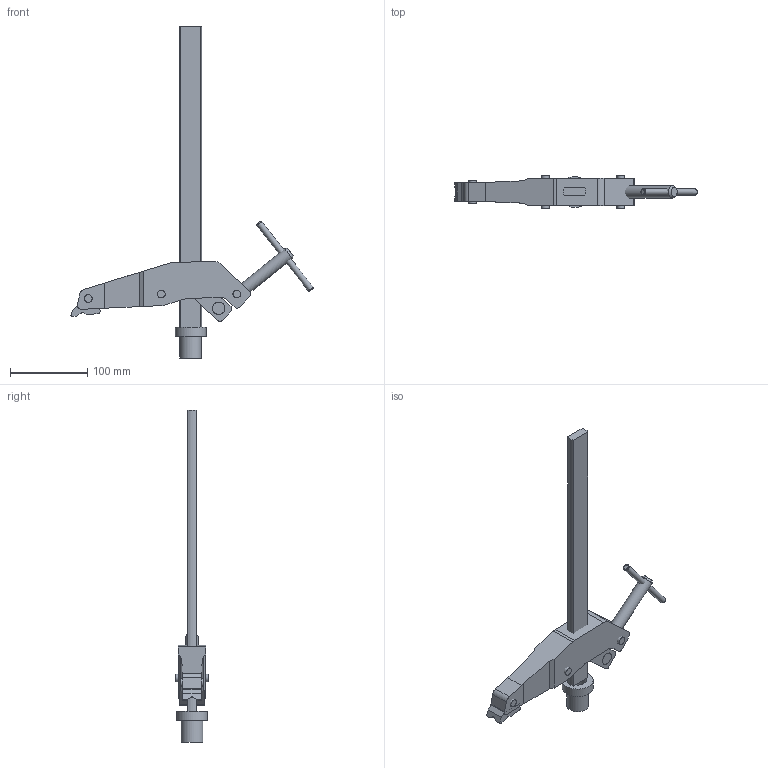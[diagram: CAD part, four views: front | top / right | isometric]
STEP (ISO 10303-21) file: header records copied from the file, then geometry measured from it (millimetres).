
FILE_DESCRIPTION( ('This file contains a STEP AP42 implementation' ,'as created by ZW3D STEP Interface translator.') ,'2;1' );
FILE_NAME( 'TW28GRS30-12_Unten.stp' ,'14 4 3.103644', (''), ('ZWCAD Software Co.'), 'Version 1.0', 'ZW3D to STEP translator', '' );
FILE_SCHEMA( ('CONFIG_CONTROL_DESIGN') );
Length unit declared in the file: millimetre
Products named in the file (3): 0; TW28GRS30-12_Unten; Bauteil007
Assembly tree (1 placements, depth 2):
  0
  TW28GRS30-12_Unten
    Bauteil007
Bounding box: 313.45 x 42 x 429 mm (x, y, z)
Volume: 515585.5 mm3; surface area: 97115.4 mm2
Topology: 10 solids, 10 shells, 92 faces, 214 edges, 140 vertices
Faces by surface type: bspline 92
Entity records: 2912 total; most frequent: CARTESIAN_POINT 1456, ORIENTED_EDGE 426, EDGE_CURVE 213, B_SPLINE_CURVE_WITH_KNOTS 154, VERTEX_POINT 140, EDGE_LOOP 95, FACE_OUTER_BOUND 92, ADVANCED_FACE 92
